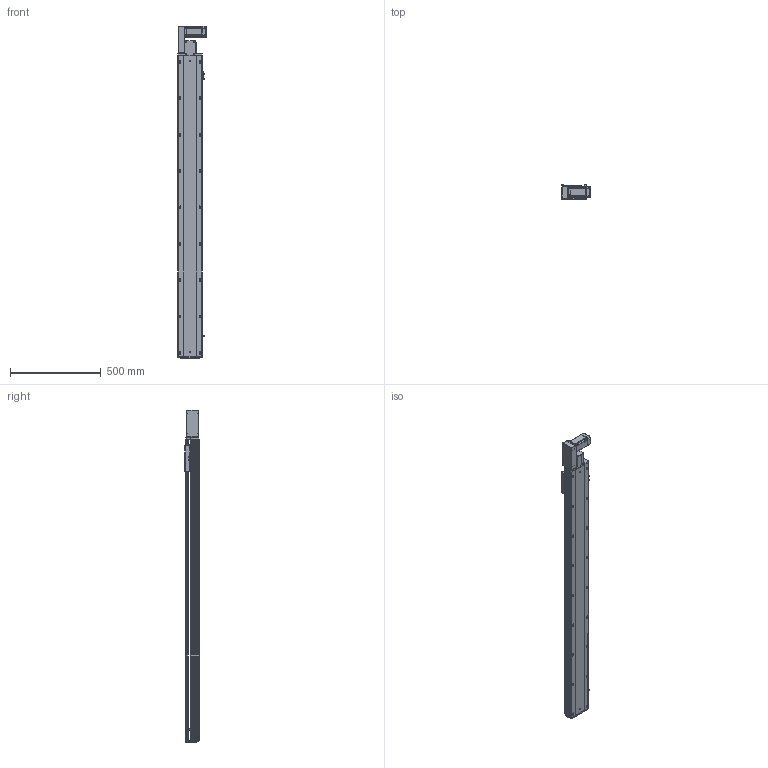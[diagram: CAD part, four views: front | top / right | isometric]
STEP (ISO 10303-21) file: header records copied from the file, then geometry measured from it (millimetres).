
FILE_DESCRIPTION (( 'STEP AP203' ), '1' );
FILE_NAME ('RY140-T-300-LK.SLDASM_1400.step', '2021-03-01T06:36:09', ( '盈信电脑' ), ( '东莞市道滘镇水果街19号' ), 'SwSTEP 2.0', 'SolidWorks 2012', '' );
FILE_SCHEMA (( 'CONFIG_CONTROL_DESIGN' ));
Products named in the file (18): RY140-T-300-LK.SLDASM_1400; RY140-T萇儂欶; 滅袉蝶18-10; RY140-T翋肮謫裔啣; 15; 侂狟400W侜督萇儂; RY120-T主同步轮轴承压盖; RY120-T蹟翐M4; RY120-T肮祭湍揤踡輸1; RY120-T肮祭湍揤踡輸2; RY140-T萇儂假蚾啣; RY140-T翋肮祭謫盓傅釱; RY120外置感应片(140共用）; 覜茼ん672; RY140綴裔啣; RY140-T-300-DL倰第菁釱_1400; RY140-T-300-DL倰第奻裔啣_1400; RY140肮祭謫臏賑輸
Assembly tree (23 placements, depth 3):
  RY140-T-300-LK.SLDASM_1400
    RY140-T-300-DL倰第菁釱_1400
    RY140肮祭謫臏賑輸
    RY140-T-300-DL倰第奻裔啣_1400
    RY140綴裔啣
    覜茼ん672  x3
    RY120外置感应片(140共用）
    RY120-T肮祭湍揤踡輸2
    RY120-T肮祭湍揤踡輸1
    RY140-T翋肮祭謫盓傅釱
    RY140-T萇儂假蚾啣
    侂狟400W侜督萇儂
      15
    RY120-T主同步轮轴承压盖
    RY120-T蹟翐M4  x4
    RY140-T萇儂欶
    滅袉蝶18-10  x2
    RY140-T翋肮謫裔啣
Bounding box: 157 x 78 x 1826.5 mm (x, y, z)
Volume: 4953832.9 mm3; surface area: 1914724.7 mm2
Topology: 22 solids, 22 shells, 2755 faces, 7549 edges, 4826 vertices
Faces by surface type: plane 1385, cylinder 1024, cone 246, bspline 100
Entity records: 87097 total; most frequent: CARTESIAN_POINT 21197, ORIENTED_EDGE 13530, DIRECTION 12901, EDGE_CURVE 6765, VERTEX_POINT 4425, AXIS2_PLACEMENT_3D 4304, LINE 4293, VECTOR 4293
